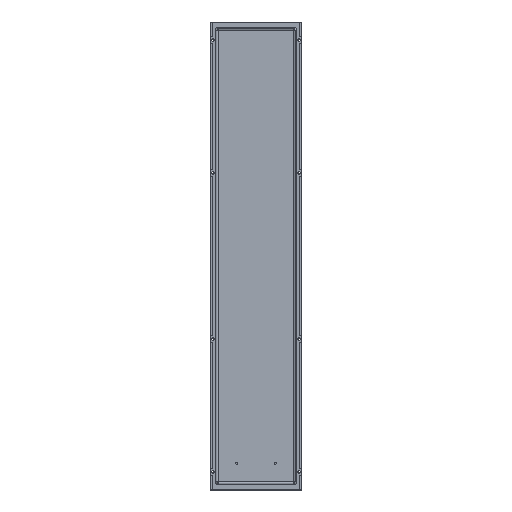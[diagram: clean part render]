
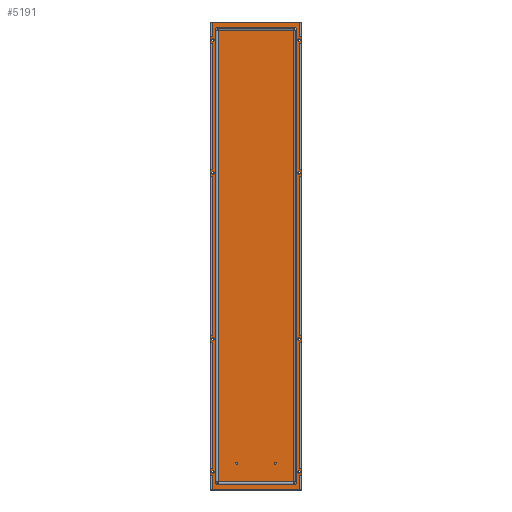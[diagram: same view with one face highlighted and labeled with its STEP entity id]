
A CAD part, top view. The second image highlights one B-rep face of the part: STEP entity #5191.
In plain terms, the highlighted planar face has unit normal (0, 0, 1).
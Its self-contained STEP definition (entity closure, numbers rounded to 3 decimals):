
#4171=CARTESIAN_POINT(' ',(-162.5,312.5,1.5));
#4176=DIRECTION(' ',(0.,0.,-1.));
#4181=DIRECTION(' ',(0.,-1.,0.));
#4186=AXIS2_PLACEMENT_3D(' ',#4171,#4176,#4181);
#4191=CIRCLE('',#4186,4.75);
#4196=CARTESIAN_POINT(' ',(-162.5,307.75,1.5));
#4197=VERTEX_POINT(' ',#4196);
#4201=CARTESIAN_POINT(' ',(-162.5,317.25,1.5));
#4202=VERTEX_POINT(' ',#4201);
#4206=EDGE_CURVE(' ',#4197,#4202,#4191,.T.);
#4336=DIRECTION(' ',(0.,0.,1.));
#4341=CARTESIAN_POINT(' ',(-170.9,-878.4,1.5));
#4346=DIRECTION(' ',(1.,0.,0.));
#4351=AXIS2_PLACEMENT_3D(' ',#4341,#4336,#4346);
#4356=PLANE('NONE',#4351);
#4361=CARTESIAN_POINT(' ',(170.9,-878.4,1.5));
#4366=DIRECTION(' ',(-1.,0.,0.));
#4371=VECTOR(' ',#4366,1.);
#4376=LINE('',#4361,#4371);
#4381=CARTESIAN_POINT(' ',(170.9,-878.4,1.5));
#4382=VERTEX_POINT(' ',#4381);
#4386=CARTESIAN_POINT(' ',(-170.9,-878.4,1.5));
#4387=VERTEX_POINT(' ',#4386);
#4391=EDGE_CURVE(' ',#4382,#4387,#4376,.T.);
#4396=ORIENTED_EDGE(' ',*,*,#4391,.F.);
#4401=CARTESIAN_POINT(' ',(170.9,878.4,1.5));
#4406=DIRECTION(' ',(0.,-1.,0.));
#4411=VECTOR(' ',#4406,1.);
#4416=LINE('',#4401,#4411);
#4421=CARTESIAN_POINT(' ',(170.9,878.4,1.5));
#4422=VERTEX_POINT(' ',#4421);
#4426=EDGE_CURVE(' ',#4422,#4382,#4416,.T.);
#4431=ORIENTED_EDGE(' ',*,*,#4426,.F.);
#4436=CARTESIAN_POINT(' ',(-170.9,878.4,1.5));
#4441=DIRECTION(' ',(1.,0.,0.));
#4446=VECTOR(' ',#4441,1.);
#4451=LINE('',#4436,#4446);
#4456=CARTESIAN_POINT(' ',(-170.9,878.4,1.5));
#4457=VERTEX_POINT(' ',#4456);
#4461=EDGE_CURVE(' ',#4457,#4422,#4451,.T.);
#4466=ORIENTED_EDGE(' ',*,*,#4461,.F.);
#4471=CARTESIAN_POINT(' ',(-170.9,-878.4,1.5));
#4476=DIRECTION(' ',(0.,1.,0.));
#4481=VECTOR(' ',#4476,1.);
#4486=LINE('',#4471,#4481);
#4491=EDGE_CURVE(' ',#4387,#4457,#4486,.T.);
#4496=ORIENTED_EDGE(' ',*,*,#4491,.F.);
#4501=EDGE_LOOP(' ',(#4396,#4431,#4466,#4496));
#4506=FACE_OUTER_BOUND(' ',#4501,.T.);
#4511=CARTESIAN_POINT(' ',(-162.5,-312.5,1.5));
#4516=DIRECTION(' ',(0.,0.,1.));
#4521=DIRECTION(' ',(0.,-1.,0.));
#4526=AXIS2_PLACEMENT_3D(' ',#4511,#4516,#4521);
#4531=CIRCLE('',#4526,4.75);
#4536=CARTESIAN_POINT(' ',(-162.5,-317.25,1.5));
#4537=VERTEX_POINT(' ',#4536);
#4541=CARTESIAN_POINT(' ',(-162.5,-307.75,1.5));
#4542=VERTEX_POINT(' ',#4541);
#4546=EDGE_CURVE(' ',#4537,#4542,#4531,.T.);
#4551=ORIENTED_EDGE(' ',*,*,#4546,.F.);
#4556=CARTESIAN_POINT(' ',(-162.5,-312.5,1.5));
#4561=DIRECTION(' ',(0.,0.,1.));
#4566=DIRECTION(' ',(0.,1.,0.));
#4571=AXIS2_PLACEMENT_3D(' ',#4556,#4561,#4566);
#4576=CIRCLE('',#4571,4.75);
#4581=EDGE_CURVE(' ',#4542,#4537,#4576,.T.);
#4586=ORIENTED_EDGE(' ',*,*,#4581,.F.);
#4591=EDGE_LOOP(' ',(#4551,#4586));
#4596=FACE_BOUND(' ',#4591,.T.);
#4601=CARTESIAN_POINT(' ',(-162.5,312.5,1.5));
#4606=DIRECTION(' ',(0.,0.,-1.));
#4611=DIRECTION(' ',(0.,1.,0.));
#4616=AXIS2_PLACEMENT_3D(' ',#4601,#4606,#4611);
#4621=CIRCLE('',#4616,4.75);
#4626=EDGE_CURVE(' ',#4202,#4197,#4621,.T.);
#4631=ORIENTED_EDGE(' ',*,*,#4626,.T.);
#4636=ORIENTED_EDGE(' ',*,*,#4206,.T.);
#4641=EDGE_LOOP(' ',(#4631,#4636));
#4646=FACE_BOUND(' ',#4641,.T.);
#4651=CARTESIAN_POINT(' ',(162.5,-812.5,1.5));
#4656=DIRECTION(' ',(0.,0.,-1.));
#4661=DIRECTION(' ',(0.,-1.,0.));
#4666=AXIS2_PLACEMENT_3D(' ',#4651,#4656,#4661);
#4671=CIRCLE('',#4666,4.75);
#4676=CARTESIAN_POINT(' ',(162.5,-817.25,1.5));
#4677=VERTEX_POINT(' ',#4676);
#4681=CARTESIAN_POINT(' ',(162.5,-807.75,1.5));
#4682=VERTEX_POINT(' ',#4681);
#4686=EDGE_CURVE(' ',#4677,#4682,#4671,.T.);
#4691=ORIENTED_EDGE(' ',*,*,#4686,.T.);
#4696=CARTESIAN_POINT(' ',(162.5,-812.5,1.5));
#4701=DIRECTION(' ',(0.,0.,-1.));
#4706=DIRECTION(' ',(0.,1.,0.));
#4711=AXIS2_PLACEMENT_3D(' ',#4696,#4701,#4706);
#4716=CIRCLE('',#4711,4.75);
#4721=EDGE_CURVE(' ',#4682,#4677,#4716,.T.);
#4726=ORIENTED_EDGE(' ',*,*,#4721,.T.);
#4731=EDGE_LOOP(' ',(#4691,#4726));
#4736=FACE_BOUND(' ',#4731,.T.);
#4741=CARTESIAN_POINT(' ',(-162.5,-812.5,1.5));
#4746=DIRECTION(' ',(0.,0.,1.));
#4751=DIRECTION(' ',(0.,-1.,0.));
#4756=AXIS2_PLACEMENT_3D(' ',#4741,#4746,#4751);
#4761=CIRCLE('',#4756,4.75);
#4766=CARTESIAN_POINT(' ',(-162.5,-817.25,1.5));
#4767=VERTEX_POINT(' ',#4766);
#4771=CARTESIAN_POINT(' ',(-162.5,-807.75,1.5));
#4772=VERTEX_POINT(' ',#4771);
#4776=EDGE_CURVE(' ',#4767,#4772,#4761,.T.);
#4781=ORIENTED_EDGE(' ',*,*,#4776,.F.);
#4786=CARTESIAN_POINT(' ',(-162.5,-812.5,1.5));
#4791=DIRECTION(' ',(0.,0.,1.));
#4796=DIRECTION(' ',(0.,1.,0.));
#4801=AXIS2_PLACEMENT_3D(' ',#4786,#4791,#4796);
#4806=CIRCLE('',#4801,4.75);
#4811=EDGE_CURVE(' ',#4772,#4767,#4806,.T.);
#4816=ORIENTED_EDGE(' ',*,*,#4811,.F.);
#4821=EDGE_LOOP(' ',(#4781,#4816));
#4826=FACE_BOUND(' ',#4821,.T.);
#4831=CARTESIAN_POINT(' ',(-162.5,812.5,1.5));
#4836=DIRECTION(' ',(0.,0.,-1.));
#4841=DIRECTION(' ',(0.,1.,0.));
#4846=AXIS2_PLACEMENT_3D(' ',#4831,#4836,#4841);
#4851=CIRCLE('',#4846,4.75);
#4856=CARTESIAN_POINT(' ',(-162.5,817.25,1.5));
#4857=VERTEX_POINT(' ',#4856);
#4861=CARTESIAN_POINT(' ',(-162.5,807.75,1.5));
#4862=VERTEX_POINT(' ',#4861);
#4866=EDGE_CURVE(' ',#4857,#4862,#4851,.T.);
#4871=ORIENTED_EDGE(' ',*,*,#4866,.T.);
#4876=CARTESIAN_POINT(' ',(-162.5,812.5,1.5));
#4881=DIRECTION(' ',(0.,0.,-1.));
#4886=DIRECTION(' ',(0.,-1.,0.));
#4891=AXIS2_PLACEMENT_3D(' ',#4876,#4881,#4886);
#4896=CIRCLE('',#4891,4.75);
#4901=EDGE_CURVE(' ',#4862,#4857,#4896,.T.);
#4906=ORIENTED_EDGE(' ',*,*,#4901,.T.);
#4911=EDGE_LOOP(' ',(#4871,#4906));
#4916=FACE_BOUND(' ',#4911,.T.);
#4921=CARTESIAN_POINT(' ',(162.5,-312.5,1.5));
#4926=DIRECTION(' ',(0.,0.,-1.));
#4931=DIRECTION(' ',(0.,-1.,0.));
#4936=AXIS2_PLACEMENT_3D(' ',#4921,#4926,#4931);
#4941=CIRCLE('',#4936,4.75);
#4946=CARTESIAN_POINT(' ',(162.5,-317.25,1.5));
#4947=VERTEX_POINT(' ',#4946);
#4951=CARTESIAN_POINT(' ',(162.5,-307.75,1.5));
#4952=VERTEX_POINT(' ',#4951);
#4956=EDGE_CURVE(' ',#4947,#4952,#4941,.T.);
#4961=ORIENTED_EDGE(' ',*,*,#4956,.T.);
#4966=CARTESIAN_POINT(' ',(162.5,-312.5,1.5));
#4971=DIRECTION(' ',(0.,0.,-1.));
#4976=DIRECTION(' ',(0.,1.,0.));
#4981=AXIS2_PLACEMENT_3D(' ',#4966,#4971,#4976);
#4986=CIRCLE('',#4981,4.75);
#4991=EDGE_CURVE(' ',#4952,#4947,#4986,.T.);
#4996=ORIENTED_EDGE(' ',*,*,#4991,.T.);
#5001=EDGE_LOOP(' ',(#4961,#4996));
#5006=FACE_BOUND(' ',#5001,.T.);
#5011=CARTESIAN_POINT(' ',(162.5,812.5,1.5));
#5016=DIRECTION(' ',(0.,0.,1.));
#5021=DIRECTION(' ',(0.,1.,0.));
#5026=AXIS2_PLACEMENT_3D(' ',#5011,#5016,#5021);
#5031=CIRCLE('',#5026,4.75);
#5036=CARTESIAN_POINT(' ',(162.5,817.25,1.5));
#5037=VERTEX_POINT(' ',#5036);
#5041=CARTESIAN_POINT(' ',(162.5,807.75,1.5));
#5042=VERTEX_POINT(' ',#5041);
#5046=EDGE_CURVE(' ',#5037,#5042,#5031,.T.);
#5051=ORIENTED_EDGE(' ',*,*,#5046,.F.);
#5056=CARTESIAN_POINT(' ',(162.5,812.5,1.5));
#5061=DIRECTION(' ',(0.,0.,1.));
#5066=DIRECTION(' ',(0.,-1.,0.));
#5071=AXIS2_PLACEMENT_3D(' ',#5056,#5061,#5066);
#5076=CIRCLE('',#5071,4.75);
#5081=EDGE_CURVE(' ',#5042,#5037,#5076,.T.);
#5086=ORIENTED_EDGE(' ',*,*,#5081,.F.);
#5091=EDGE_LOOP(' ',(#5051,#5086));
#5096=FACE_BOUND(' ',#5091,.T.);
#5101=CARTESIAN_POINT(' ',(162.5,312.5,1.5));
#5106=DIRECTION(' ',(0.,0.,1.));
#5111=DIRECTION(' ',(0.,1.,0.));
#5116=AXIS2_PLACEMENT_3D(' ',#5101,#5106,#5111);
#5121=CIRCLE('',#5116,4.75);
#5126=CARTESIAN_POINT(' ',(162.5,317.25,1.5));
#5127=VERTEX_POINT(' ',#5126);
#5131=CARTESIAN_POINT(' ',(162.5,307.75,1.5));
#5132=VERTEX_POINT(' ',#5131);
#5136=EDGE_CURVE(' ',#5127,#5132,#5121,.T.);
#5141=ORIENTED_EDGE(' ',*,*,#5136,.F.);
#5146=CARTESIAN_POINT(' ',(162.5,312.5,1.5));
#5151=DIRECTION(' ',(0.,0.,1.));
#5156=DIRECTION(' ',(0.,-1.,0.));
#5161=AXIS2_PLACEMENT_3D(' ',#5146,#5151,#5156);
#5166=CIRCLE('',#5161,4.75);
#5171=EDGE_CURVE(' ',#5132,#5127,#5166,.T.);
#5176=ORIENTED_EDGE(' ',*,*,#5171,.F.);
#5181=EDGE_LOOP(' ',(#5141,#5176));
#5186=FACE_BOUND(' ',#5181,.T.);
#5191=ADVANCED_FACE('NONE',(#4506,#4596,#4646,#4736,#4826,#4916,#5006,#5096,#5186),#4356,.T.);
